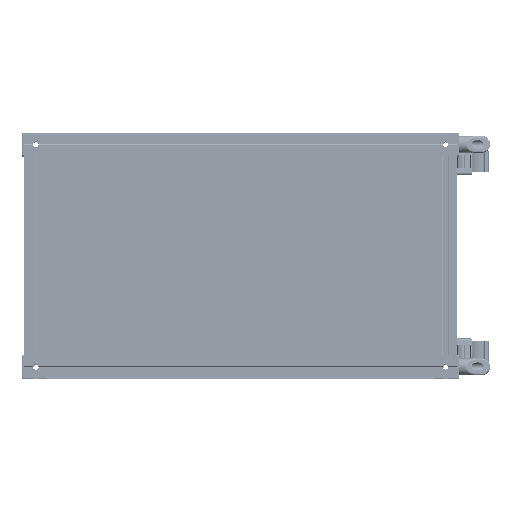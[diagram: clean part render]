
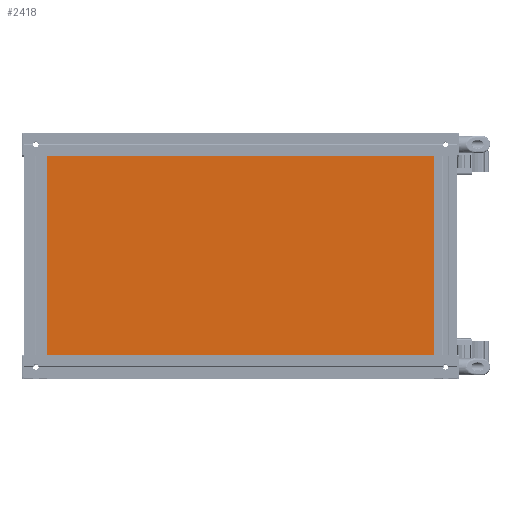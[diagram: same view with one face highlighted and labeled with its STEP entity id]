
A CAD part, top view. The second image highlights one B-rep face of the part: STEP entity #2418.
In plain terms, the highlighted planar face has unit normal (0, 0, 1).
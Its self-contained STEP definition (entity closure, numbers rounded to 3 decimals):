
#2418=ADVANCED_FACE('',(#48694),#48696,.T.);
#48694=FACE_BOUND('',#48695,.T.);
#48695=EDGE_LOOP('',(#89419,#89420,#89421,#89422));
#48696=PLANE('',#48697);
#48697=AXIS2_PLACEMENT_3D('',#48698,#48699,#48700);
#48698=CARTESIAN_POINT('',(0.,0.,5.));
#48699=DIRECTION('',(0.,0.,1.));
#48700=DIRECTION('',(-1.,0.,0.));
#89419=ORIENTED_EDGE('',*,*,#121544,.T.);
#89420=ORIENTED_EDGE('',*,*,#121548,.T.);
#89421=ORIENTED_EDGE('',*,*,#121551,.T.);
#89422=ORIENTED_EDGE('',*,*,#121553,.T.);
#121544=EDGE_CURVE('',#137549,#137547,#137550,.T.);
#121548=EDGE_CURVE('',#137547,#137554,#137556,.T.);
#121551=EDGE_CURVE('',#137554,#137559,#137561,.T.);
#121553=EDGE_CURVE('',#137559,#137549,#137563,.T.);
#137547=VERTEX_POINT('',#164295);
#137549=VERTEX_POINT('',#164299);
#137550=LINE('',#164300,#164301);
#137554=VERTEX_POINT('',#164310);
#137556=LINE('',#164314,#164315);
#137559=VERTEX_POINT('',#164321);
#137561=LINE('',#164325,#164326);
#137563=LINE('',#164331,#164332);
#164295=CARTESIAN_POINT('',(-30.,-390.,5.));
#164299=CARTESIAN_POINT('',(-710.,-390.,5.));
#164300=CARTESIAN_POINT('',(-710.,-390.,5.));
#164301=VECTOR('',#164302,1.);
#164302=DIRECTION('',(1.,0.,0.));
#164310=CARTESIAN_POINT('',(-30.,-30.,5.));
#164314=CARTESIAN_POINT('',(-30.,-390.,5.));
#164315=VECTOR('',#164316,1.);
#164316=DIRECTION('',(0.,1.,0.));
#164321=CARTESIAN_POINT('',(-710.,-30.,5.));
#164325=CARTESIAN_POINT('',(-30.,-30.,5.));
#164326=VECTOR('',#164327,1.);
#164327=DIRECTION('',(-1.,0.,0.));
#164331=CARTESIAN_POINT('',(-710.,-30.,5.));
#164332=VECTOR('',#164333,1.);
#164333=DIRECTION('',(0.,-1.,0.));
